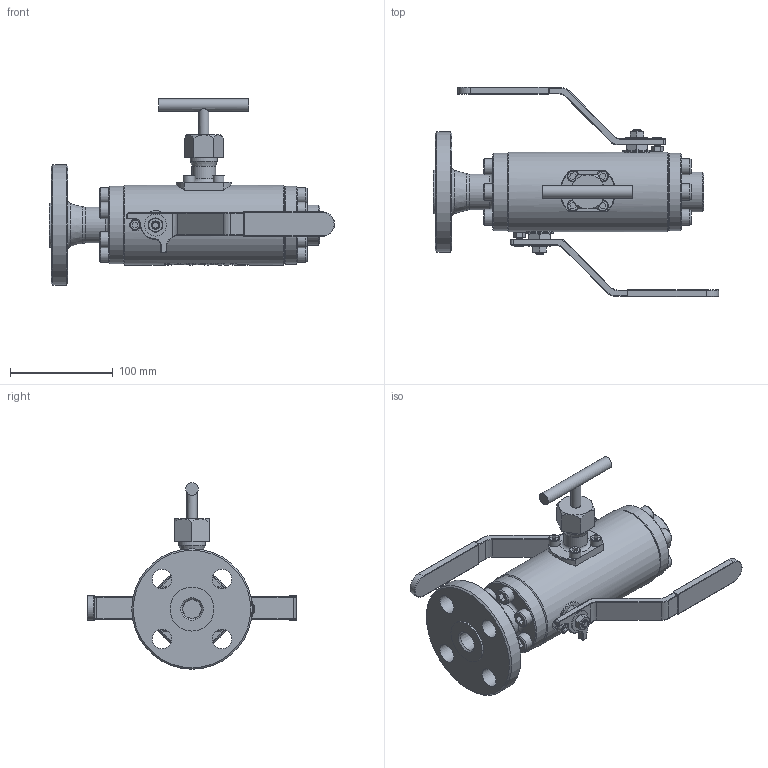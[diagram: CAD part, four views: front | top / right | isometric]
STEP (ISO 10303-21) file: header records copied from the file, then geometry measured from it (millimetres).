
FILE_DESCRIPTION(/* description */ (''),/* implementation_level */ '2;1');
FILE_NAME(/* name */ 'C:\Users\pc\Desktop\TFED-¾-300-PT-RFxNPTH-PALANCA.stp',/* time_stamp */ '2022-09-10T16:33:52-03:00',/* author */ ('pc'),/* organization */ (''),/* preprocessor_version */ 'ST-DEVELOPER v18',/* originating_system */ 'Autodesk Inventor 2020',/* authorisation */ '');
FILE_SCHEMA (('AUTOMOTIVE_DESIGN { 1 0 10303 214 3 1 1 }'));
Length unit declared in the file: millimetre
Products named in the file (2): TFED-¾-300-PT-RFxNPTH-PALANCA; TFED-¾-300-PT-RFxNPTH-PALANCA_1
Assembly tree (1 placements, depth 2):
  TFED-¾-300-PT-RFxNPTH-PALANCA
    TFED-¾-300-PT-RFxNPTH-PALANCA_1
Bounding box: 278.26 x 204.29 x 181.95 mm (x, y, z)
Volume: 1200065.3 mm3; surface area: 160307.4 mm2
Topology: 1 solids, 25 shells, 940 faces, 2583 edges, 1696 vertices
Faces by surface type: plane 366, cone 285, cylinder 211, torus 46, bspline 30, sphere 2
Full cylindrical faces by diameter (mm): 2.668 x1, 5.968 x4, 7.04 x4, 7.878 x24, 7.957 x2, 9.823 x1, 9.947 x2, 11.264 x4, 12.157 x1, 12.891 x2, 16 x12, 18 x1, 19 x5, 21.485 x2, 23.1 x1, 26.4 x1, 35 x1, 39 x1, 42.9 x1, 76 x1, 76.059 x1, 78 x1, 117.5 x1
Entity records: 35567 total; most frequent: CARTESIAN_POINT 11902, ORIENTED_EDGE 5162, DIRECTION 4828, EDGE_CURVE 2581, AXIS2_PLACEMENT_3D 1854, VERTEX_POINT 1696, LINE 1120, VECTOR 1120
